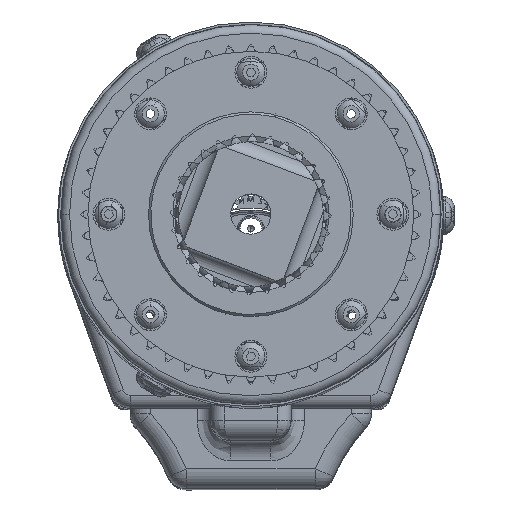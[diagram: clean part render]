
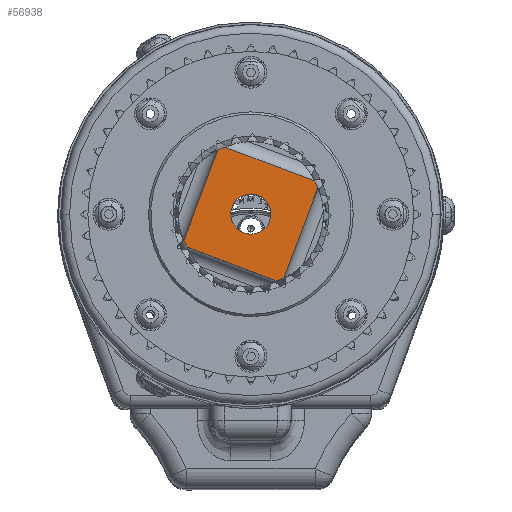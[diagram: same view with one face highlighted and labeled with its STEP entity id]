
A CAD part, top view. The second image highlights one B-rep face of the part: STEP entity #56938.
In plain terms, the highlighted planar face has unit normal (0, 0, 1).
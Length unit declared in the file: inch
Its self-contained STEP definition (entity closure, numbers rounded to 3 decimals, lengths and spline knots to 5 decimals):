
#2578 = DIRECTION ( 'NONE',  ( 0.936, -0.351, 0. ) ) ;
#3676 = DIRECTION ( 'NONE',  ( 0., 0., 1. ) ) ;
#5406 = DIRECTION ( 'NONE',  ( 0.351, 0.936, 0. ) ) ;
#8587 = VERTEX_POINT ( 'NONE', #104618 ) ;
#11656 = DIRECTION ( 'NONE',  ( 0.351, 0.936, 0. ) ) ;
#11662 = VECTOR ( 'NONE', #109966, 39.37008 ) ;
#12411 = EDGE_CURVE ( 'NONE', #99740, #89605, #29499, .T. ) ;
#13198 = ORIENTED_EDGE ( 'NONE', *, *, #94142, .F. ) ;
#13237 = VECTOR ( 'NONE', #90516, 39.37008 ) ;
#16912 = CIRCLE ( 'NONE', #64902, 0.1875 ) ;
#17071 = AXIS2_PLACEMENT_3D ( 'NONE', #104538, #90460, #96439 ) ;
#17475 = VERTEX_POINT ( 'NONE', #99640 ) ;
#18327 = AXIS2_PLACEMENT_3D ( 'NONE', #99010, #81676, #88078 ) ;
#18683 = CARTESIAN_POINT ( 'NONE',  ( 0., 0., 2.09144 ) ) ;
#18985 = VERTEX_POINT ( 'NONE', #98277 ) ;
#19264 = DIRECTION ( 'NONE',  ( 0., 0., 1. ) ) ;
#25071 = EDGE_CURVE ( 'NONE', #78174, #44657, #83749, .T. ) ;
#25554 = EDGE_CURVE ( 'NONE', #8587, #105859, #96686, .T. ) ;
#26146 = AXIS2_PLACEMENT_3D ( 'NONE', #33665, #111316, #68927 ) ;
#26533 = ORIENTED_EDGE ( 'NONE', *, *, #26745, .F. ) ;
#26745 = EDGE_CURVE ( 'NONE', #43125, #17475, #74761, .T. ) ;
#29088 = LINE ( 'NONE', #109013, #13237 ) ;
#29499 = CIRCLE ( 'NONE', #62806, 0.67 ) ;
#29741 = EDGE_LOOP ( 'NONE', ( #61036, #107335, #59405, #13198, #60715, #73983, #33002, #80409 ) ) ;
#33002 = ORIENTED_EDGE ( 'NONE', *, *, #25071, .T. ) ;
#33665 = CARTESIAN_POINT ( 'NONE',  ( -0.62731, 0.23534, 2.09144 ) ) ;
#33861 = CARTESIAN_POINT ( 'NONE',  ( 0.24403, -0.62398, 2.09144 ) ) ;
#35508 = CARTESIAN_POINT ( 'NONE',  ( 0., 0., 2.09144 ) ) ;
#37637 = CARTESIAN_POINT ( 'NONE',  ( -0.99362, -1.22932, 2.09144 ) ) ;
#38390 = EDGE_CURVE ( 'NONE', #80035, #18985, #60900, .T. ) ;
#39930 = VECTOR ( 'NONE', #74805, 39.37008 ) ;
#43125 = VERTEX_POINT ( 'NONE', #106488 ) ;
#44657 = VERTEX_POINT ( 'NONE', #55039 ) ;
#45353 = DIRECTION ( 'NONE',  ( 0., 0., 1. ) ) ;
#48004 = CARTESIAN_POINT ( 'NONE',  ( 0., 0., 2.09144 ) ) ;
#50912 = CARTESIAN_POINT ( 'NONE',  ( 0.30949, -0.59423, 2.09144 ) ) ;
#55039 = CARTESIAN_POINT ( 'NONE',  ( -0.30949, 0.59423, 2.09144 ) ) ;
#56319 = AXIS2_PLACEMENT_3D ( 'NONE', #35508, #45353, #11656 ) ;
#56678 = LINE ( 'NONE', #37637, #11662 ) ;
#56780 = EDGE_CURVE ( 'NONE', #17475, #43125, #16912, .T. ) ;
#56938 = ADVANCED_FACE ( 'NONE', ( #78285, #113610 ), #75977, .F. ) ;
#57038 = CARTESIAN_POINT ( 'NONE',  ( 0., 0., 2.09144 ) ) ;
#59405 = ORIENTED_EDGE ( 'NONE', *, *, #12411, .T. ) ;
#60715 = ORIENTED_EDGE ( 'NONE', *, *, #25554, .T. ) ;
#60900 = CIRCLE ( 'NONE', #18327, 0.67 ) ;
#61036 = ORIENTED_EDGE ( 'NONE', *, *, #38390, .T. ) ;
#62806 = AXIS2_PLACEMENT_3D ( 'NONE', #57038, #3676, #5406 ) ;
#64022 = CARTESIAN_POINT ( 'NONE',  ( -1.22932, 0.99362, 2.09144 ) ) ;
#64902 = AXIS2_PLACEMENT_3D ( 'NONE', #18683, #19264, #71354 ) ;
#65899 = DIRECTION ( 'NONE',  ( 0.351, 0.936, 0. ) ) ;
#68927 = DIRECTION ( 'NONE',  ( -0.351, -0.936, 0. ) ) ;
#71354 = DIRECTION ( 'NONE',  ( 0.351, 0.936, 0. ) ) ;
#71793 = EDGE_LOOP ( 'NONE', ( #111618, #26533 ) ) ;
#73983 = ORIENTED_EDGE ( 'NONE', *, *, #77796, .F. ) ;
#74226 = LINE ( 'NONE', #92835, #39930 ) ;
#74761 = CIRCLE ( 'NONE', #56319, 0.1875 ) ;
#74805 = DIRECTION ( 'NONE',  ( -0.351, -0.936, 0. ) ) ;
#75977 = PLANE ( 'NONE',  #26146 ) ;
#77796 = EDGE_CURVE ( 'NONE', #78174, #105859, #106968, .T. ) ;
#78174 = VERTEX_POINT ( 'NONE', #80526 ) ;
#78224 = EDGE_CURVE ( 'NONE', #80035, #44657, #56678, .T. ) ;
#78285 = FACE_BOUND ( 'NONE', #71793, .T. ) ;
#80035 = VERTEX_POINT ( 'NONE', #101352 ) ;
#80409 = ORIENTED_EDGE ( 'NONE', *, *, #78224, .F. ) ;
#80526 = CARTESIAN_POINT ( 'NONE',  ( -0.24403, 0.62398, 2.09144 ) ) ;
#81676 = DIRECTION ( 'NONE',  ( 0., 0., 1. ) ) ;
#83349 = DIRECTION ( 'NONE',  ( 0., 0., 1. ) ) ;
#83749 = CIRCLE ( 'NONE', #17071, 0.67 ) ;
#88078 = DIRECTION ( 'NONE',  ( 0.351, 0.936, 0. ) ) ;
#89239 = EDGE_CURVE ( 'NONE', #99740, #18985, #29088, .T. ) ;
#89538 = CARTESIAN_POINT ( 'NONE',  ( 0.59423, 0.30949, 2.09144 ) ) ;
#89605 = VERTEX_POINT ( 'NONE', #50912 ) ;
#90460 = DIRECTION ( 'NONE',  ( 0., 0., 1. ) ) ;
#90516 = DIRECTION ( 'NONE',  ( -0.936, 0.351, 0. ) ) ;
#92835 = CARTESIAN_POINT ( 'NONE',  ( 0.99362, 1.22932, 2.09144 ) ) ;
#94142 = EDGE_CURVE ( 'NONE', #8587, #89605, #74226, .T. ) ;
#94873 = VECTOR ( 'NONE', #2578, 39.37008 ) ;
#96439 = DIRECTION ( 'NONE',  ( 0.351, 0.936, 0. ) ) ;
#96686 = CIRCLE ( 'NONE', #102207, 0.67 ) ;
#98277 = CARTESIAN_POINT ( 'NONE',  ( -0.59423, -0.30949, 2.09144 ) ) ;
#99010 = CARTESIAN_POINT ( 'NONE',  ( 0., 0., 2.09144 ) ) ;
#99640 = CARTESIAN_POINT ( 'NONE',  ( 0.06586, 0.17555, 2.09144 ) ) ;
#99740 = VERTEX_POINT ( 'NONE', #33861 ) ;
#101352 = CARTESIAN_POINT ( 'NONE',  ( -0.62398, -0.24403, 2.09144 ) ) ;
#102207 = AXIS2_PLACEMENT_3D ( 'NONE', #48004, #83349, #65899 ) ;
#104538 = CARTESIAN_POINT ( 'NONE',  ( 0., 0., 2.09144 ) ) ;
#104618 = CARTESIAN_POINT ( 'NONE',  ( 0.62398, 0.24403, 2.09144 ) ) ;
#105859 = VERTEX_POINT ( 'NONE', #89538 ) ;
#106488 = CARTESIAN_POINT ( 'NONE',  ( -0.06586, -0.17555, 2.09144 ) ) ;
#106968 = LINE ( 'NONE', #64022, #94873 ) ;
#107335 = ORIENTED_EDGE ( 'NONE', *, *, #89239, .F. ) ;
#109013 = CARTESIAN_POINT ( 'NONE',  ( 1.22932, -0.99362, 2.09144 ) ) ;
#109966 = DIRECTION ( 'NONE',  ( 0.351, 0.936, 0. ) ) ;
#111316 = DIRECTION ( 'NONE',  ( 0., 0., -1. ) ) ;
#111618 = ORIENTED_EDGE ( 'NONE', *, *, #56780, .F. ) ;
#113610 = FACE_OUTER_BOUND ( 'NONE', #29741, .T. ) ;
